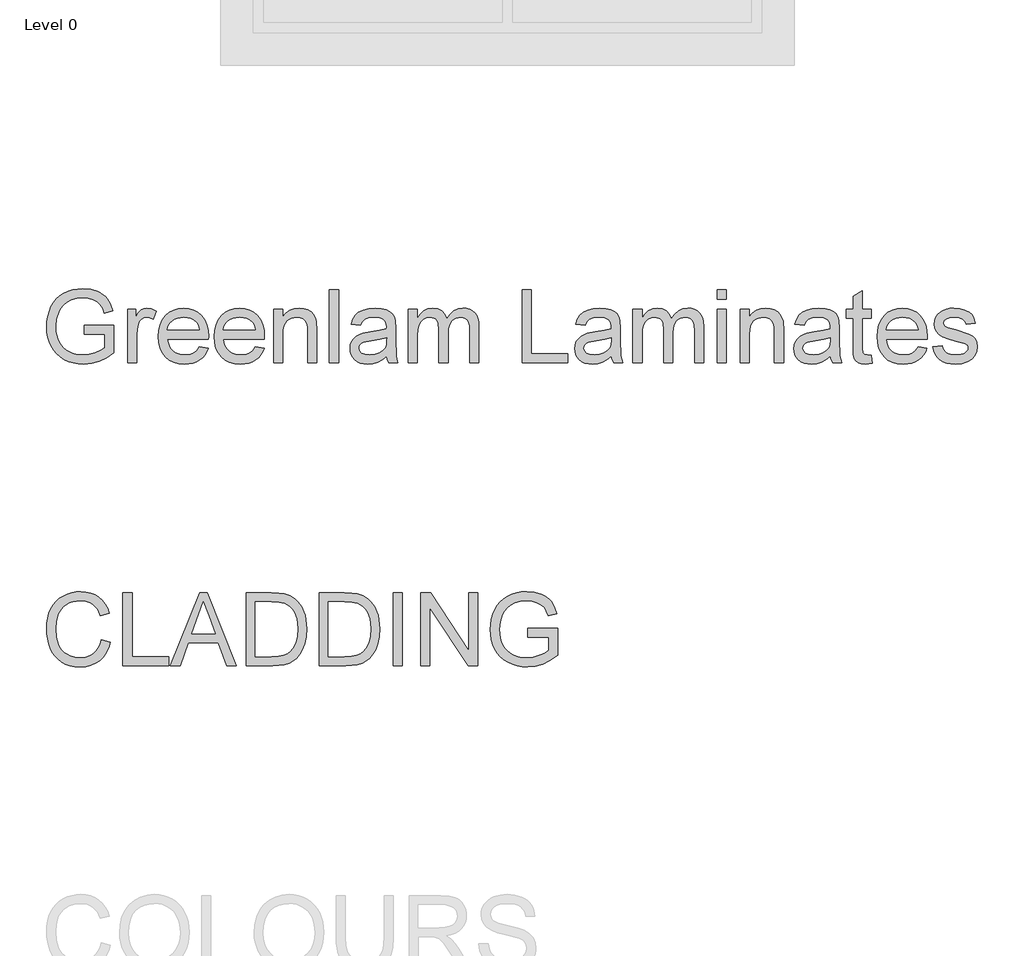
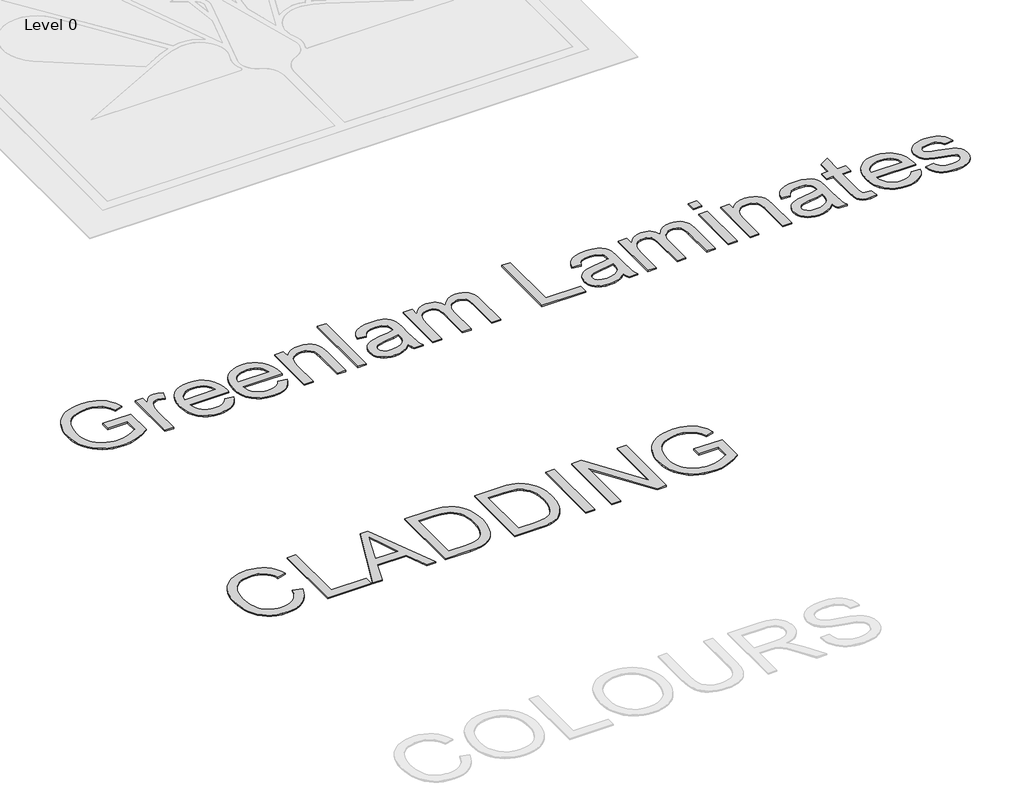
# One storey, part 6 of 6: 2 proxies.
"""IFC4 building model written with IfcOpenShell, lengths in millimetres."""

from ifc_helpers import new_model, si_unit, origin, origin_with_axes, place, context, project, spatial, polyline, outline, extrude, element, save

model = new_model("IFC4")

# Units and contexts
model_context = context("Model", 3, world=origin())
ifc_project = project(units=[si_unit("LENGTHUNIT", "METRE", prefix="MILLI")], contexts=[model_context])

# Site, building, storey
site = spatial("IfcSite", under=ifc_project)
building = spatial("IfcBuilding", under=site)
storey = spatial("IfcBuildingStorey", under=building, Name="Level 0", Elevation=0.0)

# Proxies
placement = place(None, origin())
element("IfcBuildingElementProxy", 1, Name="600mm Arial", ObjectType="600mm Arial", at=placement, inside=storey, context=model_context, shape_type="SweptSolid", body=[
    extrude(outline(polyline([(-10594.9298129, 2995.5724296), (-10594.9298129, 3070.9146622), (-10350.067557, 3070.9146622), (-10350.067557, 2845.6237284), (-10409.5724697, 2804.2370039), (-10470.9535806, 2774.5489269), (-10534.0637368, 2756.6698619), (-10598.7557857, 2750.7101736), (-10642.0325039, 2753.0784139), (-10683.2766741, 2760.183135), (-10722.4882962, 2772.0243367), (-10759.6673704, 2788.6020191), (-10793.6136815, 2809.6678618), (-10823.1270146, 2834.9735446), (-10848.2073696, 2864.5190673), (-10868.8547466, 2898.3044301), (-10884.9817735, 2935.2489794), (-10896.5010785, 2974.2720621), (-10903.4126615, 3015.373678), (-10905.7165225, 3058.5538272), (-10903.4218585, 3101.7385749), (-10896.5378667, 3143.4425975), (-10885.064547, 3183.6658952), (-10869.0018994, 3222.4084678), (-10848.6350324, 3257.9688612), (-10824.2490546, 3288.645621), (-10795.8439661, 3314.4387474), (-10763.4197667, 3335.3482403), (-10727.6800309, 3351.507457), (-10689.3283329, 3363.0497546), (-10648.3646727, 3369.9751331), (-10604.7890504, 3372.2835926), (-10542.7273578, 3366.9309096), (-10486.9196592, 3350.8728605), (-10462.0002525, 3339.1190308), (-10439.9227343, 3325.2682737), (-10420.6871045, 3309.3205892), (-10404.293363, 3291.2759773), (-10377.9346181, 3247.2588966), (-10358.749572, 3191.5799566), (-10428.2056927, 3172.0086345), (-10443.7119188, 3211.7214959), (-10462.5658711, 3241.6854844), (-10487.5082704, 3264.2734389), (-10521.2798375, 3281.8581982), (-10561.5445219, 3293.1705696), (-10605.9662728, 3296.94136), (-10657.9663928, 3292.876264), (-10702.4249319, 3280.6809758), (-10739.1763433, 3261.8822059), (-10768.0550799, 3238.0066644), (-10790.2199701, 3210.2867561), (-10806.8298422, 3179.9548856), (-10824.4881779, 3123.0803291), (-10830.3742899, 3061.6440359), (-10828.6038578, 3024.0235034), (-10823.2925615, 2989.5943472), (-10814.4404009, 2958.3565672), (-10802.0473762, 2930.3101636), (-10786.2744357, 2905.5609024), (-10767.2825277, 2884.2145496), (-10745.0716522, 2866.2711053), (-10719.6418093, 2851.7305695), (-10692.1840169, 2840.496373), (-10663.8892929, 2832.471947), (-10634.7576374, 2827.6572914), (-10604.7890504, 2826.0524062), (-10552.6049894, 2830.8900544), (-10501.7085154, 2845.4029992), (-10457.5074936, 2865.3973856), (-10425.4097896, 2886.679359), (-10425.4097896, 2995.5724296), (-10594.9298129, 2995.5724296)])), origin_with_axes(), (0.0, 0.0, 1.0), 10.0),
    extrude(outline(polyline([(-10237.054208, 2760.1279527), (-10237.054208, 3202.7635693), (-10171.1297545, 3202.7635693), (-10171.1297545, 3137.2805741), (-10146.7759664, 3175.245996), (-10124.3351647, 3197.6132213), (-10101.8207866, 3208.5393166), (-10077.2462693, 3212.1813483), (-10039.7223058, 3206.3688128), (-10001.6097311, 3188.9312062), (-10026.7728596, 3121.3880719), (-10053.2603632, 3132.9763548), (-10079.7478669, 3136.8391157), (-10102.2438509, 3133.1235076), (-10122.3486019, 3121.9766831), (-10138.590592, 3104.244771), (-10149.4982932, 3080.7738997), (-10158.6585549, 3038.6881994), (-10161.7119754, 2992.7765264), (-10161.7119754, 2760.1279527), (-10237.054208, 2760.1279527)])), origin_with_axes(), (0.0, 0.0, 1.0), 10.0),
    extrude(outline(polyline([(-9644.617043, 2891.9768597), (-9570.7463384, 2882.5590807), (-9582.0725053, 2852.9721712), (-9597.3626007, 2826.8985348), (-9616.6166246, 2804.3381714), (-9639.8345771, 2785.2910811), (-9666.7773347, 2770.1619341), (-9697.2057742, 2759.3554005), (-9731.1198956, 2752.8714803), (-9768.519699, 2750.7101736), (-9815.2683035, 2754.4395773), (-9856.9217424, 2765.6277885), (-9893.4800157, 2784.2748071), (-9924.9431233, 2810.3806332), (-9950.2442075, 2843.2186998), (-9968.3164106, 2882.06244), (-9979.1597324, 2926.9118537), (-9982.774173, 2977.766941), (-9979.1229442, 3030.3464752), (-9968.1692578, 3076.6904095), (-9949.9131138, 3116.798744), (-9924.3545121, 3150.6714788), (-9892.9741779, 3177.5820467), (-9857.2528362, 3196.8038809), (-9817.1904869, 3208.3369815), (-9772.7871301, 3212.1813483), (-9729.8139146, 3208.3461785), (-9690.9517803, 3196.8406691), (-9656.2007273, 3177.6648201), (-9625.5607557, 3150.8186315), (-9600.5493785, 3117.0194732), (-9582.6841091, 3076.9847151), (-9571.9649475, 3030.7143572), (-9568.3918936, 2978.2083994), (-9568.833352, 2957.9013133), (-9907.4319404, 2957.9013133), (-9903.0679402, 2927.8361572), (-9894.3905236, 2901.5050034), (-9881.3996907, 2878.9078519), (-9864.0954413, 2860.0447026), (-9843.4342688, 2845.1730729), (-9820.3726662, 2834.5504803), (-9794.9106336, 2828.1769247), (-9767.048171, 2826.0524062), (-9726.9490335, 2829.9887436), (-9693.1774664, 2841.7977556), (-9665.7334695, 2862.2152063), (-9644.617043, 2891.9768597)]), holes=[polyline([(-9907.4319404, 3033.2435459), (-9643.7341262, 3033.2435459), (-9653.9244575, 3073.0483778), (-9662.689246, 3088.7017567), (-9673.9004498, 3101.5224442), (-9694.4466593, 3116.973488), (-9717.82556, 3128.0099478), (-9744.0371522, 3134.6318238), (-9773.0814357, 3136.8391157), (-9799.5735379, 3135.0778807), (-9823.8675452, 3129.7941755), (-9845.9634575, 3120.9880003), (-9865.8612749, 3108.6593549), (-9882.558519, 3093.3784565), (-9895.0527112, 3075.7155222), (-9903.3438517, 3055.670552), (-9907.4319404, 3033.2435459)])]), origin_with_axes(), (0.0, 0.0, 1.0), 10.0),
    extrude(outline(polyline([(-9183.1458683, 2891.9768597), (-9109.2751636, 2882.5590807), (-9120.6013305, 2852.9721712), (-9135.891426, 2826.8985348), (-9155.1454499, 2804.3381714), (-9178.3634023, 2785.2910811), (-9205.3061599, 2770.1619341), (-9235.7345995, 2759.3554005), (-9269.6487209, 2752.8714803), (-9307.0485242, 2750.7101736), (-9353.7971288, 2754.4395773), (-9395.4505677, 2765.6277885), (-9432.0088409, 2784.2748071), (-9463.4719486, 2810.3806332), (-9488.7730328, 2843.2186998), (-9506.8452358, 2882.06244), (-9517.6885576, 2926.9118537), (-9521.3029982, 2977.766941), (-9517.6517694, 3030.3464752), (-9506.698083, 3076.6904095), (-9488.441939, 3116.798744), (-9462.8833374, 3150.6714788), (-9431.5030032, 3177.5820467), (-9395.7816615, 3196.8038809), (-9355.7193122, 3208.3369815), (-9311.3159554, 3212.1813483), (-9268.3427398, 3208.3461785), (-9229.4806055, 3196.8406691), (-9194.7295526, 3177.6648201), (-9164.0895809, 3150.8186315), (-9139.0782038, 3117.0194732), (-9121.2129344, 3076.9847151), (-9110.4937727, 3030.7143572), (-9106.9207189, 2978.2083994), (-9107.3621772, 2957.9013133), (-9445.9607656, 2957.9013133), (-9441.5967654, 2927.8361572), (-9432.9193489, 2901.5050034), (-9419.9285159, 2878.9078519), (-9402.6242666, 2860.0447026), (-9381.963094, 2845.1730729), (-9358.9014915, 2834.5504803), (-9333.4394589, 2828.1769247), (-9305.5769962, 2826.0524062), (-9265.4778588, 2829.9887436), (-9231.7062916, 2841.7977556), (-9204.2622948, 2862.2152063), (-9183.1458683, 2891.9768597)]), holes=[polyline([(-9445.9607656, 3033.2435459), (-9182.2629515, 3033.2435459), (-9192.4532827, 3073.0483778), (-9201.2180713, 3088.7017567), (-9212.4292751, 3101.5224442), (-9232.9754845, 3116.973488), (-9256.3543853, 3128.0099478), (-9282.5659775, 3134.6318238), (-9311.610261, 3136.8391157), (-9338.1023631, 3135.0778807), (-9362.3963704, 3129.7941755), (-9384.4922827, 3120.9880003), (-9404.3901002, 3108.6593549), (-9421.0873442, 3093.3784565), (-9433.5815365, 3075.7155222), (-9441.8726769, 3055.670552), (-9445.9607656, 3033.2435459)])]), origin_with_axes(), (0.0, 0.0, 1.0), 10.0),
    extrude(outline(polyline([(-9031.5784862, 2760.1279527), (-9031.5784862, 3202.7635693), (-8956.2362536, 3202.7635693), (-8956.2362536, 3140.9593941), (-8930.0614497, 3172.1189991), (-8898.6259332, 3194.3758598), (-8861.9297042, 3207.7299762), (-8819.9727626, 3212.1813483), (-8782.8350752, 3208.5944989), (-8748.8243847, 3197.8339505), (-8720.4606829, 3181.2424725), (-8700.2639614, 3160.1628342), (-8686.5603571, 3134.6502179), (-8677.6760069, 3104.7598058), (-8673.7028813, 3031.9191707), (-8673.7028813, 2760.1279527), (-8749.0451139, 2760.1279527), (-8749.0451139, 3021.7656276), (-8751.2156177, 3060.7243309), (-8757.727129, 3088.4258452), (-8769.7384762, 3108.2730788), (-8788.4084874, 3123.6689403), (-8812.3392112, 3133.5465719), (-8840.132696, 3136.8391157), (-8863.0103575, 3134.9905087), (-8884.2601413, 3129.4446876), (-8903.8820472, 3120.2016525), (-8921.8760753, 3107.2614033), (-8936.9086533, 3089.1524121), (-8947.646209, 3064.4031509), (-8954.0887425, 3033.0136196), (-8956.2362536, 2994.9838184), (-8956.2362536, 2760.1279527), (-9031.5784862, 2760.1279527)])), origin_with_axes(), (0.0, 0.0, 1.0), 10.0),
    extrude(outline(polyline([(-8570.1073115, 2760.1279527), (-8570.1073115, 3362.8658136), (-8494.7650789, 3362.8658136), (-8494.7650789, 2760.1279527), (-8570.1073115, 2760.1279527)])), origin_with_axes(), (0.0, 0.0, 1.0), 10.0),
    extrude(outline(polyline([(-8099.2183577, 2816.6346271), (-8135.2156109, 2785.7693277), (-8172.2797219, 2765.5726062), (-8211.2568193, 2754.4257817), (-8252.9930316, 2750.7101736), (-8286.5392711, 2752.9450567), (-8315.9560351, 2759.6497061), (-8341.2433238, 2770.8241217), (-8362.401137, 2786.4683035), (-8379.1075781, 2805.5889702), (-8391.0407503, 2827.1928404), (-8398.2006537, 2851.279914), (-8400.5872881, 2877.8501911), (-8396.9820446, 2909.0833725), (-8386.1663139, 2937.4470743), (-8369.4828654, 2961.727286), (-8348.2744684, 2980.709997), (-8323.3504632, 2995.0573948), (-8295.5201903, 3005.4316671), (-8230.3315007, 3016.7624325), (-8153.297011, 3028.6818092), (-8099.6598161, 3042.661325), (-8099.2183577, 3059.4367439), (-8104.4054938, 3093.0611583), (-8110.889414, 3105.5139638), (-8119.9669022, 3115.0605016), (-8135.6570693, 3124.5886453), (-8154.7685389, 3131.3944622), (-8203.2553859, 3136.8391157), (-8248.1369893, 3133.2154781), (-8279.4805353, 3122.3445651), (-8300.8544792, 3102.2398141), (-8315.8272764, 3070.9146622), (-8391.169509, 3080.3324413), (-8378.0913041, 3121.5352247), (-8358.5751643, 3153.9088403), (-8330.8000736, 3178.6672986), (-8292.9450163, 3197.0246101), (-8246.6470672, 3208.3921638), (-8193.5433012, 3212.1813483), (-8142.610039, 3208.8336222), (-8102.23499, 3198.7904437), (-8071.7927549, 3183.6888878), (-8050.6579343, 3165.1660294), (-8036.6416303, 3142.2653752), (-8027.554945, 3114.030432), (-8023.8761251, 3048.1059785), (-8023.8761251, 2954.3696461), (-8020.0501523, 2823.4772322), (-8014.3847696, 2791.1220108), (-8005.0405669, 2760.1279527), (-8080.3827995, 2760.1279527), (-8092.449329, 2786.3211507), (-8099.2183577, 2816.6346271)]), holes=[polyline([(-8099.2183577, 2967.3190924), (-8149.8389202, 2954.7743163), (-8220.7665689, 2944.2161031), (-8285.5873764, 2932.0024208), (-8302.4547659, 2923.6514995), (-8314.9443596, 2912.1367931), (-8322.6698815, 2898.3412183), (-8325.2450555, 2883.1476919), (-8319.6348551, 2860.7436784), (-8302.8042538, 2842.3863668), (-8275.1211337, 2830.1358964), (-8236.9533767, 2826.0524062), (-8196.4863572, 2830.5589606), (-8160.7282273, 2844.078624), (-8131.739126, 2863.999434), (-8111.5791927, 2887.7094286), (-8102.6396602, 2912.1367931), (-8099.6598161, 2945.9819366), (-8099.2183577, 2967.3190924)])]), origin_with_axes(), (0.0, 0.0, 1.0), 10.0),
    extrude(outline(polyline([(-7920.2805552, 2760.1279527), (-7920.2805552, 3202.7635693), (-7844.9383226, 3202.7635693), (-7844.9383226, 3129.9229342), (-7822.2767917, 3163.3818017), (-7793.1405377, 3189.5933938), (-7758.5228419, 3206.5343597), (-7719.4169858, 3212.1813483), (-7677.5152266, 3206.4239951), (-7659.6821469, 3199.2273036), (-7643.9276004, 3189.1519354), (-7618.8380484, 3161.5056035), (-7602.4305114, 3124.6254335), (-7574.9681204, 3162.9311462), (-7543.6429685, 3190.2923696), (-7508.4550557, 3206.7091037), (-7469.4043819, 3212.1813483), (-7439.2426568, 3209.9050785), (-7412.7689488, 3203.076269), (-7389.9832577, 3191.6949197), (-7370.8855836, 3175.7610308), (-7355.7886262, 3155.0906612), (-7345.0050853, 3129.4998699), (-7338.5349607, 3098.988657), (-7336.3782525, 3063.5570223), (-7336.3782525, 2760.1279527), (-7411.7204851, 2760.1279527), (-7411.7204851, 3031.1834067), (-7413.4679246, 3068.7625525), (-7418.710243, 3094.0912279), (-7428.5326923, 3111.436864), (-7444.0205243, 3125.0668919), (-7463.9413343, 3133.8960598), (-7487.0627177, 3136.8391157), (-7508.413669, 3134.9537205), (-7527.8792251, 3129.2975348), (-7545.4593859, 3119.8705587), (-7561.1541515, 3106.6727921), (-7574.062211, 3089.317959), (-7583.2822535, 3067.4197832), (-7588.814279, 3040.9782648), (-7590.6582875, 3009.9934038), (-7590.6582875, 2760.1279527), (-7666.0005201, 2760.1279527), (-7666.0005201, 3039.5711162), (-7670.3599218, 3082.1718512), (-7675.8091738, 3098.8920879), (-7683.4381267, 3112.5589041), (-7693.5502831, 3123.1814967), (-7706.4491455, 3130.7690628), (-7722.1347141, 3135.3216025), (-7740.6069888, 3136.8391157), (-7769.6328782, 3132.7924138), (-7796.3778992, 3120.6523079), (-7818.4508189, 3100.7131038), (-7833.4604044, 3073.269107), (-7842.068843, 3035.1933205), (-7844.9383226, 2983.3587473), (-7844.9383226, 2760.1279527), (-7920.2805552, 2760.1279527)])), origin_with_axes(), (0.0, 0.0, 1.0), 10.0),
    extrude(outline(polyline([(-6978.5026476, 2760.1279527), (-6978.5026476, 3362.8658136), (-6903.1604149, 3362.8658136), (-6903.1604149, 2835.4701853), (-6601.7914845, 2835.4701853), (-6601.7914845, 2760.1279527), (-6978.5026476, 2760.1279527)])), origin_with_axes(), (0.0, 0.0, 1.0), 10.0),
    extrude(outline(polyline([(-6243.9158796, 2816.6346271), (-6279.9131328, 2785.7693277), (-6316.9772438, 2765.5726062), (-6355.9543412, 2754.4257817), (-6397.6905536, 2750.7101736), (-6431.236793, 2752.9450567), (-6460.653557, 2759.6497061), (-6485.9408457, 2770.8241217), (-6507.0986589, 2786.4683035), (-6523.8051, 2805.5889702), (-6535.7382723, 2827.1928404), (-6542.8981756, 2851.279914), (-6545.28481, 2877.8501911), (-6541.6795665, 2909.0833725), (-6530.8638358, 2937.4470743), (-6514.1803873, 2961.727286), (-6492.9719903, 2980.709997), (-6468.0479852, 2995.0573948), (-6440.2177122, 3005.4316671), (-6375.0290227, 3016.7624325), (-6297.9945329, 3028.6818092), (-6244.357338, 3042.661325), (-6243.9158796, 3059.4367439), (-6249.1030157, 3093.0611583), (-6255.5869359, 3105.5139638), (-6264.6644241, 3115.0605016), (-6280.3545912, 3124.5886453), (-6299.4660609, 3131.3944622), (-6347.9529078, 3136.8391157), (-6392.8345112, 3133.2154781), (-6424.1780572, 3122.3445651), (-6445.5520011, 3102.2398141), (-6460.5247984, 3070.9146622), (-6535.867031, 3080.3324413), (-6522.788826, 3121.5352247), (-6503.2726862, 3153.9088403), (-6475.4975956, 3178.6672986), (-6437.6425383, 3197.0246101), (-6391.3445892, 3208.3921638), (-6338.2408232, 3212.1813483), (-6287.3075609, 3208.8336222), (-6246.932512, 3198.7904437), (-6216.4902768, 3183.6888878), (-6195.3554562, 3165.1660294), (-6181.3391522, 3142.2653752), (-6172.2524669, 3114.030432), (-6168.573647, 3048.1059785), (-6168.573647, 2954.3696461), (-6164.7476742, 2823.4772322), (-6159.0822915, 2791.1220108), (-6149.7380888, 2760.1279527), (-6225.0803214, 2760.1279527), (-6237.1468509, 2786.3211507), (-6243.9158796, 2816.6346271)]), holes=[polyline([(-6243.9158796, 2967.3190924), (-6294.5364421, 2954.7743163), (-6365.4640908, 2944.2161031), (-6430.2848983, 2932.0024208), (-6447.1522878, 2923.6514995), (-6459.6418816, 2912.1367931), (-6467.3674035, 2898.3412183), (-6469.9425774, 2883.1476919), (-6464.332377, 2860.7436784), (-6447.5017757, 2842.3863668), (-6419.8186556, 2830.1358964), (-6381.6508986, 2826.0524062), (-6341.1838791, 2830.5589606), (-6305.4257492, 2844.078624), (-6276.436648, 2863.999434), (-6256.2767146, 2887.7094286), (-6247.3371821, 2912.1367931), (-6244.357338, 2945.9819366), (-6243.9158796, 2967.3190924)])]), origin_with_axes(), (0.0, 0.0, 1.0), 10.0),
    extrude(outline(polyline([(-6064.9780771, 2760.1279527), (-6064.9780771, 3202.7635693), (-5989.6358445, 3202.7635693), (-5989.6358445, 3129.9229342), (-5966.9743136, 3163.3818017), (-5937.8380596, 3189.5933938), (-5903.2203639, 3206.5343597), (-5864.1145078, 3212.1813483), (-5822.2127485, 3206.4239951), (-5804.3796688, 3199.2273036), (-5788.6251224, 3189.1519354), (-5763.5355703, 3161.5056035), (-5747.1280333, 3124.6254335), (-5719.6656424, 3162.9311462), (-5688.3404905, 3190.2923696), (-5653.1525776, 3206.7091037), (-5614.1019038, 3212.1813483), (-5583.9401788, 3209.9050785), (-5557.4664707, 3203.076269), (-5534.6807796, 3191.6949197), (-5515.5831055, 3175.7610308), (-5500.4861482, 3155.0906612), (-5489.7026072, 3129.4998699), (-5483.2324826, 3098.988657), (-5481.0757744, 3063.5570223), (-5481.0757744, 2760.1279527), (-5556.418007, 2760.1279527), (-5556.418007, 3031.1834067), (-5558.1654465, 3068.7625525), (-5563.4077649, 3094.0912279), (-5573.2302142, 3111.436864), (-5588.7180462, 3125.0668919), (-5608.6388562, 3133.8960598), (-5631.7602396, 3136.8391157), (-5653.1111909, 3134.9537205), (-5672.576747, 3129.2975348), (-5690.1569078, 3119.8705587), (-5705.8516734, 3106.6727921), (-5718.759733, 3089.317959), (-5727.9797755, 3067.4197832), (-5733.511801, 3040.9782648), (-5735.3558095, 3009.9934038), (-5735.3558095, 2760.1279527), (-5810.6980421, 2760.1279527), (-5810.6980421, 3039.5711162), (-5815.0574437, 3082.1718512), (-5820.5066958, 3098.8920879), (-5828.1356486, 3112.5589041), (-5838.247805, 3123.1814967), (-5851.1466674, 3130.7690628), (-5866.832236, 3135.3216025), (-5885.3045107, 3136.8391157), (-5914.3304001, 3132.7924138), (-5941.0754212, 3120.6523079), (-5963.1483409, 3100.7131038), (-5978.1579263, 3073.269107), (-5986.766365, 3035.1933205), (-5989.6358445, 2983.3587473), (-5989.6358445, 2760.1279527), (-6064.9780771, 2760.1279527)])), origin_with_axes(), (0.0, 0.0, 1.0), 10.0),
    extrude(outline(polyline([(-5368.0624255, 3287.523581), (-5368.0624255, 3362.8658136), (-5292.7201929, 3362.8658136), (-5292.7201929, 3287.523581), (-5368.0624255, 3287.523581)])), origin_with_axes(), (0.0, 0.0, 1.0), 10.0),
    extrude(outline(polyline([(-5368.0624255, 2760.1279527), (-5368.0624255, 3202.7635693), (-5292.7201929, 3202.7635693), (-5292.7201929, 2760.1279527), (-5368.0624255, 2760.1279527)])), origin_with_axes(), (0.0, 0.0, 1.0), 10.0),
    extrude(outline(polyline([(-5179.7068439, 2760.1279527), (-5179.7068439, 3202.7635693), (-5104.3646113, 3202.7635693), (-5104.3646113, 3140.9593941), (-5078.1898074, 3172.1189991), (-5046.7542909, 3194.3758598), (-5010.0580619, 3207.7299762), (-4968.1011203, 3212.1813483), (-4930.9634329, 3208.5944989), (-4896.9527424, 3197.8339505), (-4868.5890406, 3181.2424725), (-4848.3923191, 3160.1628342), (-4834.6887148, 3134.6502179), (-4825.8043646, 3104.7598058), (-4821.831239, 3031.9191707), (-4821.831239, 2760.1279527), (-4897.1734716, 2760.1279527), (-4897.1734716, 3021.7656276), (-4899.3439754, 3060.7243309), (-4905.8554867, 3088.4258452), (-4917.8668339, 3108.2730788), (-4936.5368451, 3123.6689403), (-4960.4675689, 3133.5465719), (-4988.2610537, 3136.8391157), (-5011.1387152, 3134.9905087), (-5032.388499, 3129.4446876), (-5052.0104049, 3120.2016525), (-5070.004433, 3107.2614033), (-5085.037011, 3089.1524121), (-5095.7745667, 3064.4031509), (-5102.2171002, 3033.0136196), (-5104.3646113, 2994.9838184), (-5104.3646113, 2760.1279527), (-5179.7068439, 2760.1279527)])), origin_with_axes(), (0.0, 0.0, 1.0), 10.0),
    extrude(outline(polyline([(-4435.7022969, 2816.6346271), (-4471.6995501, 2785.7693277), (-4508.7636611, 2765.5726062), (-4547.7407585, 2754.4257817), (-4589.4769709, 2750.7101736), (-4623.0232103, 2752.9450567), (-4652.4399744, 2759.6497061), (-4677.727263, 2770.8241217), (-4698.8850762, 2786.4683035), (-4715.5915174, 2805.5889702), (-4727.5246896, 2827.1928404), (-4734.6845929, 2851.279914), (-4737.0712273, 2877.8501911), (-4733.4659838, 2909.0833725), (-4722.6502531, 2937.4470743), (-4705.9668047, 2961.727286), (-4684.7584076, 2980.709997), (-4659.8344025, 2995.0573948), (-4632.0041295, 3005.4316671), (-4566.81544, 3016.7624325), (-4489.7809502, 3028.6818092), (-4436.1437553, 3042.661325), (-4435.7022969, 3059.4367439), (-4440.889433, 3093.0611583), (-4447.3733532, 3105.5139638), (-4456.4508414, 3115.0605016), (-4472.1410085, 3124.5886453), (-4491.2524782, 3131.3944622), (-4539.7393251, 3136.8391157), (-4584.6209285, 3133.2154781), (-4615.9644745, 3122.3445651), (-4637.3384185, 3102.2398141), (-4652.3112157, 3070.9146622), (-4727.6534483, 3080.3324413), (-4714.5752433, 3121.5352247), (-4695.0591035, 3153.9088403), (-4667.2840129, 3178.6672986), (-4629.4289556, 3197.0246101), (-4583.1310065, 3208.3921638), (-4530.0272405, 3212.1813483), (-4479.0939782, 3208.8336222), (-4438.7189293, 3198.7904437), (-4408.2766942, 3183.6888878), (-4387.1418735, 3165.1660294), (-4373.1255695, 3142.2653752), (-4364.0388842, 3114.030432), (-4360.3600643, 3048.1059785), (-4360.3600643, 2954.3696461), (-4356.5340915, 2823.4772322), (-4350.8687088, 2791.1220108), (-4341.5245061, 2760.1279527), (-4416.8667387, 2760.1279527), (-4428.9332682, 2786.3211507), (-4435.7022969, 2816.6346271)]), holes=[polyline([(-4435.7022969, 2967.3190924), (-4486.3228594, 2954.7743163), (-4557.2505081, 2944.2161031), (-4622.0713157, 2932.0024208), (-4638.9387051, 2923.6514995), (-4651.4282989, 2912.1367931), (-4659.1538208, 2898.3412183), (-4661.7289947, 2883.1476919), (-4656.1187943, 2860.7436784), (-4639.288193, 2842.3863668), (-4611.6050729, 2830.1358964), (-4573.4373159, 2826.0524062), (-4532.9702964, 2830.5589606), (-4497.2121665, 2844.078624), (-4468.2230653, 2863.999434), (-4448.0631319, 2887.7094286), (-4439.1235995, 2912.1367931), (-4436.1437553, 2945.9819366), (-4435.7022969, 2967.3190924)])]), origin_with_axes(), (0.0, 0.0, 1.0), 10.0),
    extrude(outline(polyline([(-4096.6622501, 2822.9621974), (-4087.2444711, 2757.9206607), (-4143.6039927, 2750.7101736), (-4179.7667929, 2753.8371706), (-4206.7325431, 2763.2181614), (-4225.7888304, 2777.6759238), (-4238.2232419, 2796.0332354), (-4245.065847, 2827.5607224), (-4247.3467154, 2881.5290111), (-4247.3467154, 3127.4213367), (-4303.8533898, 3127.4213367), (-4303.8533898, 3202.7635693), (-4247.3467154, 3202.7635693), (-4247.3467154, 3310.3322647), (-4172.0044828, 3354.6252569), (-4172.0044828, 3202.7635693), (-4096.6622501, 3202.7635693), (-4096.6622501, 3127.4213367), (-4172.0044828, 3127.4213367), (-4172.0044828, 2883.7363031), (-4168.0313572, 2844.8879644), (-4155.1554874, 2831.1291777), (-4144.2845744, 2827.3215991), (-4129.4773241, 2826.0524062), (-4096.6622501, 2822.9621974)])), origin_with_axes(), (0.0, 0.0, 1.0), 10.0),
    extrude(outline(polyline([(-3711.4162248, 2891.9768597), (-3637.5455202, 2882.5590807), (-3648.8716871, 2852.9721712), (-3664.1617825, 2826.8985348), (-3683.4158064, 2804.3381714), (-3706.6337589, 2785.2910811), (-3733.5765165, 2770.1619341), (-3764.004956, 2759.3554005), (-3797.9190774, 2752.8714803), (-3835.3188808, 2750.7101736), (-3882.0674853, 2754.4395773), (-3923.7209242, 2765.6277885), (-3960.2791975, 2784.2748071), (-3991.7423051, 2810.3806332), (-4017.0433893, 2843.2186998), (-4035.1155923, 2882.06244), (-4045.9589142, 2926.9118537), (-4049.5733548, 2977.766941), (-4045.922126, 3030.3464752), (-4034.9684396, 3076.6904095), (-4016.7122955, 3116.798744), (-3991.1536939, 3150.6714788), (-3959.7733597, 3177.5820467), (-3924.052018, 3196.8038809), (-3883.9896687, 3208.3369815), (-3839.5863119, 3212.1813483), (-3796.6130964, 3208.3461785), (-3757.7509621, 3196.8406691), (-3722.9999091, 3177.6648201), (-3692.3599374, 3150.8186315), (-3667.3485603, 3117.0194732), (-3649.4832909, 3076.9847151), (-3638.7641293, 3030.7143572), (-3635.1910754, 2978.2083994), (-3635.6325338, 2957.9013133), (-3974.2311221, 2957.9013133), (-3969.867122, 2927.8361572), (-3961.1897054, 2901.5050034), (-3948.1988725, 2878.9078519), (-3930.8946231, 2860.0447026), (-3910.2334506, 2845.1730729), (-3887.171848, 2834.5504803), (-3861.7098154, 2828.1769247), (-3833.8473528, 2826.0524062), (-3793.7482153, 2829.9887436), (-3759.9766482, 2841.7977556), (-3732.5326513, 2862.2152063), (-3711.4162248, 2891.9768597)]), holes=[polyline([(-3974.2311221, 3033.2435459), (-3710.533308, 3033.2435459), (-3720.7236393, 3073.0483778), (-3729.4884278, 3088.7017567), (-3740.6996316, 3101.5224442), (-3761.245841, 3116.973488), (-3784.6247418, 3128.0099478), (-3810.836334, 3134.6318238), (-3839.8806175, 3136.8391157), (-3866.3727197, 3135.0778807), (-3890.6667269, 3129.7941755), (-3912.7626393, 3120.9880003), (-3932.6604567, 3108.6593549), (-3949.3577007, 3093.3784565), (-3961.851893, 3075.7155222), (-3970.1430335, 3055.670552), (-3974.2311221, 3033.2435459)])]), origin_with_axes(), (0.0, 0.0, 1.0), 10.0),
    extrude(outline(polyline([(-3588.10218, 2891.9768597), (-3512.7599474, 2901.3946388), (-3508.2074077, 2884.2145496), (-3500.877359, 2869.168176), (-3490.7698011, 2856.255518), (-3477.8847343, 2845.4765756), (-3462.1853701, 2836.9785015), (-3443.6349205, 2830.9084485), (-3397.9807649, 2826.0524062), (-3352.8784323, 2830.5037783), (-3335.3488552, 2836.0679935), (-3321.1670043, 2843.8578948), (-3302.4050226, 2863.2084877), (-3297.7145271, 2874.0426125), (-3296.1510286, 2885.6492894), (-3297.7237242, 2895.8212266), (-3302.4418108, 2904.8527296), (-3321.3141571, 2919.494433), (-3349.5307061, 2929.0593649), (-3398.8636817, 2940.9787415), (-3467.6208266, 2960.8627633), (-3512.318489, 2977.8405174), (-3541.0316787, 2996.3633759), (-3561.8354056, 3020.8827109), (-3574.4721521, 3049.8350239), (-3578.6844009, 3081.6568165), (-3575.2998866, 3110.8482528), (-3565.1463435, 3137.7956089), (-3549.1434767, 3161.4320271), (-3528.2109912, 3180.6906496), (-3507.4072644, 3192.8123613), (-3480.3127554, 3202.9842985), (-3448.9876035, 3209.8820859), (-3415.4919479, 3212.1813483), (-3366.4532779, 3208.4841343), (-3323.8157547, 3197.3924921), (-3289.5291527, 3179.9916738), (-3265.5432466, 3157.3669311), (-3249.6507444, 3127.844401), (-3239.6443542, 3089.7502203), (-3314.9865868, 3080.3324413), (-3324.4963364, 3104.0424359), (-3343.3135004, 3121.9031067), (-3371.6220199, 3133.1051135), (-3409.605836, 3136.8391157), (-3452.8687586, 3133.2706604), (-3481.710707, 3122.5652943), (-3497.934303, 3107.1142505), (-3503.3421683, 3089.308762), (-3501.0980882, 3077.7204791), (-3494.3658476, 3067.382995), (-3482.8511412, 3058.149157), (-3466.2596632, 3050.7547289), (-3401.3652793, 3034.7150739), (-3290.7799515, 2999.2512495), (-3261.5701211, 2982.2918896), (-3239.423625, 2959.0785357), (-3225.4625033, 2929.5376115), (-3220.808796, 2893.5955405), (-3226.2718437, 2856.439459), (-3242.6609865, 2821.4906695), (-3269.3508253, 2791.4898928), (-3305.7159605, 2769.1778498), (-3349.6410707, 2755.3270926), (-3399.0108345, 2750.7101736), (-3439.5606274, 2752.9358597), (-3474.9784665, 2759.6129179), (-3505.2643517, 2770.7413482), (-3530.4182832, 2786.3211507), (-3550.9644926, 2806.278749), (-3567.4272119, 2830.5405665), (-3579.806441, 2859.1066035), (-3588.10218, 2891.9768597)])), origin_with_axes(), (0.0, 0.0, 1.0), 10.0),
])
element("IfcBuildingElementProxy", 2, Name="600mm Arial", ObjectType="600mm Arial", at=placement, inside=storey, context=model_context, shape_type="SweptSolid", body=[
    extrude(outline(polyline([(-10453.6631268, 474.3824267), (-10378.3208942, 454.9582573), (-10393.229312, 408.1038867), (-10413.0857427, 367.1632192), (-10437.8901863, 332.1362547), (-10467.6426426, 303.0229933), (-10501.6717272, 280.1361347), (-10539.3060553, 263.7883785), (-10580.5456269, 253.9797248), (-10625.3904421, 250.7101736), (-10671.3343048, 253.18418), (-10712.7808101, 260.6061993), (-10749.729958, 272.9762314), (-10782.1817485, 290.2942763), (-10810.5822385, 312.3028166), (-10835.377485, 338.744335), (-10856.5674879, 369.6188315), (-10874.1522473, 404.926306), (-10887.9616177, 443.1400482), (-10897.8254537, 482.733348), (-10903.7437553, 523.7062052), (-10905.7165225, 566.0586199), (-10903.4862379, 611.5012433), (-10896.7953841, 653.9456285), (-10885.6439611, 693.3917754), (-10870.0319689, 729.8396841), (-10850.3088955, 762.6869478), (-10826.8242286, 791.3311596), (-10799.5779683, 815.7723197), (-10768.5701147, 836.0104279), (-10734.8537298, 851.8799375), (-10699.481876, 863.2153015), (-10662.4545532, 870.0165199), (-10623.7717614, 872.2835926), (-10580.6789842, 869.3497337), (-10541.1638594, 860.548157), (-10505.2263869, 845.8788624), (-10472.8665669, 825.3418501), (-10444.6178282, 799.4797458), (-10421.0135997, 768.8351756), (-10402.0538814, 733.4081395), (-10387.7386733, 693.1986374), (-10463.0809059, 675.245996), (-10474.9451002, 704.8742922), (-10489.2005275, 730.189172), (-10505.8471878, 751.1906354), (-10524.8850811, 767.8786824), (-10546.4245719, 780.5936039), (-10570.5760249, 789.6756906), (-10597.33944, 795.1249427), (-10626.7148173, 796.94136), (-10660.5139756, 794.9272061), (-10691.4252603, 788.8847443), (-10719.4486713, 778.8139747), (-10744.5842086, 764.7148973), (-10766.514574, 747.2221084), (-10784.9224694, 726.9702046), (-10799.8078946, 703.9591858), (-10811.1708497, 678.189052), (-10825.5734298, 623.0435409), (-10830.3742899, 566.2057727), (-10824.690513, 496.6024992), (-10817.585792, 465.3325296), (-10807.6391826, 436.4170048), (-10794.6897363, 410.4307403), (-10778.5765049, 387.9485519), (-10759.2994884, 368.9704395), (-10736.8586867, 353.496403), (-10712.3439502, 341.4896544), (-10686.8451294, 332.9134054), (-10660.3622243, 327.767656), (-10632.8952348, 326.0524062), (-10600.1399417, 328.3884569), (-10570.0058078, 335.3966089), (-10542.4928331, 347.0768622), (-10517.6010176, 363.4292169), (-10495.9189725, 384.3800965), (-10478.035309, 409.8559247), (-10463.9500271, 439.8567014), (-10453.6631268, 474.3824267)])), origin_with_axes(), (0.0, 0.0, 1.0), 10.0),
    extrude(outline(polyline([(-10274.7253243, 260.1279527), (-10274.7253243, 862.8658136), (-10199.3830917, 862.8658136), (-10199.3830917, 335.4701853), (-9898.0141613, 335.4701853), (-9898.0141613, 260.1279527), (-10274.7253243, 260.1279527)])), origin_with_axes(), (0.0, 0.0, 1.0), 10.0),
    extrude(outline(polyline([(-9883.4460343, 260.1279527), (-9642.8512094, 862.8658136), (-9578.6925895, 862.8658136), (-9338.0977646, 260.1279527), (-9417.7074284, 260.1279527), (-9486.7220907, 448.4835342), (-9734.968861, 448.4835342), (-9803.8363705, 260.1279527), (-9883.4460343, 260.1279527)]), holes=[polyline([(-9707.304135, 523.8257668), (-9514.2396639, 523.8257668), (-9568.5390464, 672.0086345), (-9610.7718994, 787.523581), (-9648.295863, 684.9580807), (-9707.304135, 523.8257668)])]), origin_with_axes(), (0.0, 0.0, 1.0), 10.0),
    extrude(outline(polyline([(-9257.6051841, 260.1279527), (-9257.6051841, 862.8658136), (-9049.6782804, 862.8658136), (-8987.5430114, 860.6953098), (-8942.109585, 854.1837985), (-8894.0641964, 837.4451677), (-8853.5236006, 811.0680286), (-8831.1839664, 789.5101437), (-8811.8425705, 765.1563556), (-8795.4994129, 738.0066644), (-8782.1544935, 708.06107), (-8771.7894183, 675.5954839), (-8764.3857931, 640.8858177), (-8758.462893, 564.7342447), (-8762.4728068, 500.0421958), (-8774.502548, 443.1124571), (-8792.8230714, 394.6440042), (-8815.7053315, 355.335813), (-8842.0456823, 324.3049667), (-8870.740478, 300.6685485), (-8903.6843106, 283.1389715), (-8942.7717726, 270.4286485), (-8988.0764403, 262.7031266), (-9039.6718901, 260.1279527), (-9257.6051841, 260.1279527)]), holes=[polyline([(-9182.2629515, 335.4701853), (-9048.9425164, 335.4701853), (-8993.7970053, 338.192512), (-8951.9688225, 346.3594923), (-8920.4045473, 359.4928796), (-8896.0507592, 377.1144271), (-8869.8759553, 409.727166), (-8850.2126626, 451.941625), (-8837.9070099, 503.941745), (-8833.8051256, 565.9114671), (-8835.814681, 609.6526363), (-8841.8433472, 648.0227284), (-8851.8911242, 681.0217434), (-8865.958012, 708.6496812), (-8882.9035764, 731.5319413), (-8901.5873832, 750.293923), (-8922.0094325, 764.9356265), (-8944.1697242, 775.4570515), (-8987.5062232, 784.5069486), (-9051.0026556, 787.523581), (-9182.2629515, 787.523581), (-9182.2629515, 335.4701853)])]), origin_with_axes(), (0.0, 0.0, 1.0), 10.0),
    extrude(outline(polyline([(-8654.8673232, 260.1279527), (-8654.8673232, 862.8658136), (-8446.9404195, 862.8658136), (-8384.8051505, 860.6953098), (-8339.3717241, 854.1837985), (-8291.3263355, 837.4451677), (-8250.7857397, 811.0680286), (-8228.4461055, 789.5101437), (-8209.1047096, 765.1563556), (-8192.761552, 738.0066644), (-8179.4166326, 708.06107), (-8169.0515574, 675.5954839), (-8161.6479322, 640.8858177), (-8155.7250321, 564.7342447), (-8159.7349459, 500.0421958), (-8171.7646871, 443.1124571), (-8190.0852105, 394.6440042), (-8212.9674706, 355.335813), (-8239.3078214, 324.3049667), (-8268.0026171, 300.6685485), (-8300.9464497, 283.1389715), (-8340.0339117, 270.4286485), (-8385.3385794, 262.7031266), (-8436.9340292, 260.1279527), (-8654.8673232, 260.1279527)]), holes=[polyline([(-8579.5250906, 335.4701853), (-8446.2046555, 335.4701853), (-8391.0591444, 338.192512), (-8349.2309616, 346.3594923), (-8317.6666864, 359.4928796), (-8293.3128983, 377.1144271), (-8267.1380944, 409.727166), (-8247.4748017, 451.941625), (-8235.169149, 503.941745), (-8231.0672647, 565.9114671), (-8233.0768201, 609.6526363), (-8239.1054863, 648.0227284), (-8249.1532633, 681.0217434), (-8263.2201511, 708.6496812), (-8280.1657155, 731.5319413), (-8298.8495223, 750.293923), (-8319.2715716, 764.9356265), (-8341.4318633, 775.4570515), (-8384.7683623, 784.5069486), (-8448.2647947, 787.523581), (-8579.5250906, 787.523581), (-8579.5250906, 335.4701853)])]), origin_with_axes(), (0.0, 0.0, 1.0), 10.0),
    extrude(outline(polyline([(-8042.7116832, 260.1279527), (-8042.7116832, 862.8658136), (-7967.3694506, 862.8658136), (-7967.3694506, 260.1279527), (-8042.7116832, 260.1279527)])), origin_with_axes(), (0.0, 0.0, 1.0), 10.0),
    extrude(outline(polyline([(-7816.6849854, 260.1279527), (-7816.6849854, 862.8658136), (-7736.045252, 862.8658136), (-7421.1382642, 385.3549838), (-7421.1382642, 862.8658136), (-7345.7960315, 862.8658136), (-7345.7960315, 260.1279527), (-7426.4357649, 260.1279527), (-7741.3427528, 737.7859352), (-7741.3427528, 260.1279527), (-7816.6849854, 260.1279527)])), origin_with_axes(), (0.0, 0.0, 1.0), 10.0),
    extrude(outline(polyline([(-6931.4137522, 495.5724296), (-6931.4137522, 570.9146622), (-6686.5514962, 570.9146622), (-6686.5514962, 345.6237284), (-6746.0564089, 304.2370039), (-6807.4375198, 274.5489269), (-6870.5476761, 256.6698619), (-6935.2397249, 250.7101736), (-6978.5164431, 253.0784139), (-7019.7606133, 260.183135), (-7058.9722355, 272.0243367), (-7096.1513096, 288.6020191), (-7130.0976207, 309.6678618), (-7159.6109538, 334.9735446), (-7184.6913088, 364.5190673), (-7205.3386858, 398.3044301), (-7221.4657127, 435.2489794), (-7232.9850177, 474.2720621), (-7239.8966007, 515.373678), (-7242.2004617, 558.5538272), (-7239.9057978, 601.7385749), (-7233.0218059, 643.4425975), (-7221.5484862, 683.6658952), (-7205.4858386, 722.4084678), (-7185.1189716, 757.9688612), (-7160.7329939, 788.645621), (-7132.3279053, 814.4387474), (-7099.903706, 835.3482403), (-7064.1639701, 851.507457), (-7025.8122721, 863.0497546), (-6984.848612, 869.9751331), (-6941.2729896, 872.2835926), (-6879.2112971, 866.9309096), (-6823.4035984, 850.8728605), (-6798.4841917, 839.1190308), (-6776.4066735, 825.2682737), (-6757.1710437, 809.3205892), (-6740.7773023, 791.2759773), (-6714.4185573, 747.2588966), (-6695.2335113, 691.5799566), (-6764.689632, 672.0086345), (-6780.1958581, 711.7214959), (-6799.0498103, 741.6854844), (-6823.9922096, 764.2734389), (-6857.7637767, 781.8581982), (-6898.0284611, 793.1705696), (-6942.450212, 796.94136), (-6994.4503321, 792.876264), (-7038.9088712, 780.6809758), (-7075.6602825, 761.8822059), (-7104.5390191, 738.0066644), (-7126.7039093, 710.2867561), (-7143.3137814, 679.9548856), (-7160.9721172, 623.0803291), (-7166.8582291, 561.6440359), (-7165.087797, 524.0235034), (-7159.7765007, 489.5943472), (-7150.9243402, 458.3565672), (-7138.5313155, 430.3101636), (-7122.7583749, 405.5609024), (-7103.7664669, 384.2145496), (-7081.5555915, 366.2711053), (-7056.1257485, 351.7305695), (-7028.6679561, 340.496373), (-7000.3732322, 332.471947), (-6971.2415767, 327.6572914), (-6941.2729896, 326.0524062), (-6889.0889286, 330.8900544), (-6838.1924546, 345.4029992), (-6793.9914329, 365.3973856), (-6761.8937288, 386.679359), (-6761.8937288, 495.5724296), (-6931.4137522, 495.5724296)])), origin_with_axes(), (0.0, 0.0, 1.0), 10.0),
])

save(model, "model.ifc")
